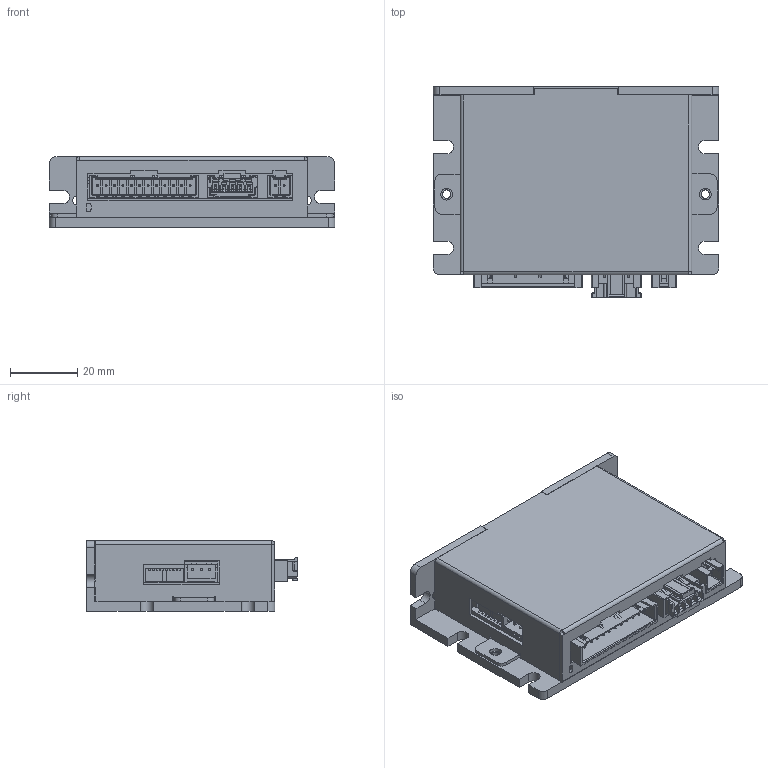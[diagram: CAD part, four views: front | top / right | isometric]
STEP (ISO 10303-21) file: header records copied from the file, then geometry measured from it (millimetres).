
FILE_DESCRIPTION (( 'STEP AP214' ), '1' );
FILE_NAME ('iD543-T.step', '2024-07-19T05:25:03', ( '' ), ( '' ), 'SwSTEP 2.0', 'SolidWorks 2022', '' );
FILE_SCHEMA (( 'AUTOMOTIVE_DESIGN' ));
Length unit declared in the file: millimetre
Products named in the file (5): 俋褲; iD543-mini-3D; iD543-T; 511030500; 菁釱
Assembly tree (4 placements, depth 2):
  iD543-T
    菁釱
    俋褲
    iD543-mini-3D
    511030500
Bounding box: 85 x 62.78 x 21 mm (x, y, z)
Volume: 24120.8 mm3; surface area: 39952.5 mm2
Topology: 3 solids, 51 shells, 1954 faces, 5010 edges, 3195 vertices
Faces by surface type: plane 1602, cylinder 190, torus 74, cone 54, bspline 34
Full cylindrical faces by diameter (mm): 0.889 x5, 1 x22, 1.067 x2, 2.5 x6, 3 x2, 3.2 x4, 3.5 x2
Entity records: 78671 total; most frequent: CARTESIAN_POINT 15128, ORIENTED_EDGE 9906, DIRECTION 9018, EDGE_CURVE 4961, LINE 4244, VECTOR 4244, VERTEX_POINT 3189, AXIS2_PLACEMENT_3D 2387
